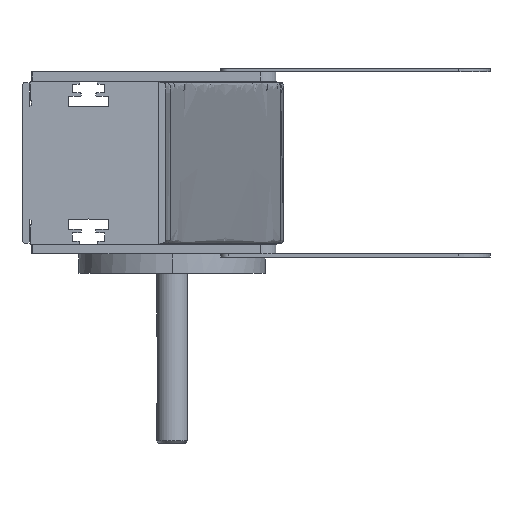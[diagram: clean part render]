
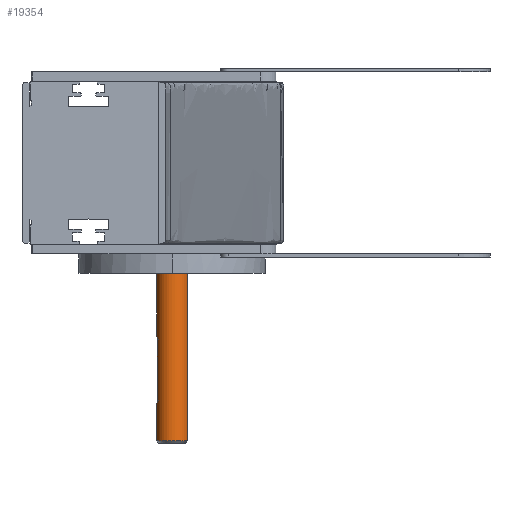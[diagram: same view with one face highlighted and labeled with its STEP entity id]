
A CAD part, left-side view. The second image highlights one B-rep face of the part: STEP entity #19354.
In plain terms, the highlighted cylindrical face has radius 10 mm (diameter 20 mm), a partial arc.
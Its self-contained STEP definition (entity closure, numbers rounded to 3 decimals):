
#10 = CARTESIAN_POINT ( 'NONE',  ( 326.001, -43.698, -180.2 ) ) ;
#36 = DIRECTION ( 'NONE',  ( 0., 0., 1. ) ) ;
#199 = DIRECTION ( 'NONE',  ( 0., 0., 1. ) ) ;
#446 = CARTESIAN_POINT ( 'NONE',  ( 325.804, -43.698, -110.7 ) ) ;
#723 = FACE_OUTER_BOUND ( 'NONE', #11193, .T. ) ;
#824 = CARTESIAN_POINT ( 'NONE',  ( 323.001, -44.158, -152.7 ) ) ;
#853 = DIRECTION ( 'NONE',  ( 0., 0., 1. ) ) ;
#1348 = EDGE_CURVE ( 'NONE', #9110, #12466, #17313, .T. ) ;
#1377 = ORIENTED_EDGE ( 'NONE', *, *, #13293, .F. ) ;
#1561 = VERTEX_POINT ( 'NONE', #10563 ) ;
#1837 = VERTEX_POINT ( 'NONE', #9058 ) ;
#2220 = DIRECTION ( 'NONE',  ( 0., 1., 0. ) ) ;
#2939 = VERTEX_POINT ( 'NONE', #6761 ) ;
#3060 = VECTOR ( 'NONE', #17420, 1000. ) ;
#3576 = CARTESIAN_POINT ( 'NONE',  ( 323.4, -44.041, -112.191 ) ) ;
#3642 = CARTESIAN_POINT ( 'NONE',  ( 326.001, -43.698, -110.7 ) ) ;
#3714 = CARTESIAN_POINT ( 'NONE',  ( 323.156, -44.111, -112.728 ) ) ;
#3877 = CARTESIAN_POINT ( 'NONE',  ( 323.617, -43.985, -154.532 ) ) ;
#4029 = DIRECTION ( 'NONE',  ( 0., 0., 1. ) ) ;
#4097 = CARTESIAN_POINT ( 'NONE',  ( 323.156, -44.111, -153.672 ) ) ;
#4253 = CARTESIAN_POINT ( 'NONE',  ( 326.001, -63.698, -52.5 ) ) ;
#4383 = CARTESIAN_POINT ( 'NONE',  ( 325.804, -43.698, -155.7 ) ) ;
#4827 = LINE ( 'NONE', #7082, #16970 ) ;
#5506 = CARTESIAN_POINT ( 'NONE',  ( 324.488, -43.806, -155.32 ) ) ;
#5707 = CARTESIAN_POINT ( 'NONE',  ( 323.307, -44.067, -154.035 ) ) ;
#6115 = EDGE_CURVE ( 'NONE', #2939, #12466, #8218, .T. ) ;
#6741 = CARTESIAN_POINT ( 'NONE',  ( 323.306, -44.067, -112.367 ) ) ;
#6761 = CARTESIAN_POINT ( 'NONE',  ( 326.001, -43.698, -110.7 ) ) ;
#6878 = CARTESIAN_POINT ( 'NONE',  ( 325.031, -43.743, -110.854 ) ) ;
#6934 = DIRECTION ( 'NONE',  ( 0., -1., 0. ) ) ;
#6950 = CARTESIAN_POINT ( 'NONE',  ( 325.219, -43.727, -110.797 ) ) ;
#7082 = CARTESIAN_POINT ( 'NONE',  ( 326.001, -43.698, -180.2 ) ) ;
#7178 = EDGE_CURVE ( 'NONE', #16358, #1837, #20406, .T. ) ;
#7261 = LINE ( 'NONE', #15904, #3060 ) ;
#7484 = LINE ( 'NONE', #10349, #9469 ) ;
#8122 = ORIENTED_EDGE ( 'NONE', *, *, #6115, .F. ) ;
#8218 = LINE ( 'NONE', #10, #11738 ) ;
#8280 = CARTESIAN_POINT ( 'NONE',  ( 323.741, -43.956, -111.717 ) ) ;
#8349 = CARTESIAN_POINT ( 'NONE',  ( 323.021, -44.152, -113.301 ) ) ;
#8404 = B_SPLINE_CURVE_WITH_KNOTS ( 'NONE', 3,
 ( #824, #13681, #10278, #8729, #4097, #5707, #18064, #3877, #8658, #14996, #5506, #11889, #19730, #13889, #4383, #12317 ),
 .UNSPECIFIED., .F., .F.,
 ( 4, 2, 2, 2, 2, 2, 2, 4 ),
 ( 0., 0.001, 0.001, 0.002, 0.002, 0.004, 0.004, 0.005 ),
 .UNSPECIFIED. ) ;
#8549 = CARTESIAN_POINT ( 'NONE',  ( 324.493, -43.811, -111.099 ) ) ;
#8644 = CARTESIAN_POINT ( 'NONE',  ( 326.001, -53.698, -178.7 ) ) ;
#8658 = CARTESIAN_POINT ( 'NONE',  ( 323.743, -43.955, -154.685 ) ) ;
#8729 = CARTESIAN_POINT ( 'NONE',  ( 323.097, -44.128, -153.481 ) ) ;
#9058 = CARTESIAN_POINT ( 'NONE',  ( 326.001, -63.698, -178.7 ) ) ;
#9110 = VERTEX_POINT ( 'NONE', #4253 ) ;
#9203 = CARTESIAN_POINT ( 'NONE',  ( 323.001, -44.158, -152.7 ) ) ;
#9371 = CARTESIAN_POINT ( 'NONE',  ( 326.001, -53.698, -180.2 ) ) ;
#9469 = VECTOR ( 'NONE', #4029, 1000. ) ;
#9688 = VERTEX_POINT ( 'NONE', #9203 ) ;
#9867 = VERTEX_POINT ( 'NONE', #15977 ) ;
#10054 = CARTESIAN_POINT ( 'NONE',  ( 326.001, -53.698, -52.5 ) ) ;
#10099 = CARTESIAN_POINT ( 'NONE',  ( 323.617, -43.985, -111.867 ) ) ;
#10100 = CYLINDRICAL_SURFACE ( 'NONE', #17549, 10. ) ;
#10278 = CARTESIAN_POINT ( 'NONE',  ( 323.02, -44.152, -153.095 ) ) ;
#10313 = ORIENTED_EDGE ( 'NONE', *, *, #1348, .T. ) ;
#10349 = CARTESIAN_POINT ( 'NONE',  ( 326.001, -63.698, -180.2 ) ) ;
#10407 = DIRECTION ( 'NONE',  ( 0., 0., 1. ) ) ;
#10481 = ORIENTED_EDGE ( 'NONE', *, *, #17554, .T. ) ;
#10548 = ORIENTED_EDGE ( 'NONE', *, *, #13817, .T. ) ;
#10563 = CARTESIAN_POINT ( 'NONE',  ( 326.001, -43.698, -155.7 ) ) ;
#10692 = AXIS2_PLACEMENT_3D ( 'NONE', #10054, #13321, #11960 ) ;
#10731 = AXIS2_PLACEMENT_3D ( 'NONE', #8644, #10407, #2220 ) ;
#10775 = EDGE_CURVE ( 'NONE', #1837, #9110, #7484, .T. ) ;
#11193 = EDGE_LOOP ( 'NONE', ( #1377, #15373, #12171, #10313, #8122, #15229, #10481, #10548 ) ) ;
#11499 = CARTESIAN_POINT ( 'NONE',  ( 324.017, -43.895, -111.441 ) ) ;
#11738 = VECTOR ( 'NONE', #199, 1000. ) ;
#11889 = CARTESIAN_POINT ( 'NONE',  ( 325.03, -43.743, -155.545 ) ) ;
#11960 = DIRECTION ( 'NONE',  ( 0., 1., 0. ) ) ;
#12171 = ORIENTED_EDGE ( 'NONE', *, *, #10775, .T. ) ;
#12317 = CARTESIAN_POINT ( 'NONE',  ( 326.001, -43.698, -155.7 ) ) ;
#12466 = VERTEX_POINT ( 'NONE', #15952 ) ;
#12795 = CARTESIAN_POINT ( 'NONE',  ( 326.001, -43.698, -178.7 ) ) ;
#13293 = EDGE_CURVE ( 'NONE', #16358, #1561, #4827, .T. ) ;
#13321 = DIRECTION ( 'NONE',  ( 0., 0., -1. ) ) ;
#13681 = CARTESIAN_POINT ( 'NONE',  ( 323.001, -44.158, -152.9 ) ) ;
#13817 = EDGE_CURVE ( 'NONE', #9688, #1561, #8404, .T. ) ;
#13889 = CARTESIAN_POINT ( 'NONE',  ( 325.608, -43.704, -155.681 ) ) ;
#14445 = EDGE_CURVE ( 'NONE', #2939, #9867, #16105, .T. ) ;
#14685 = CARTESIAN_POINT ( 'NONE',  ( 323.001, -44.158, -113.7 ) ) ;
#14761 = CARTESIAN_POINT ( 'NONE',  ( 324.667, -43.785, -111.006 ) ) ;
#14996 = CARTESIAN_POINT ( 'NONE',  ( 324.155, -43.865, -155.097 ) ) ;
#15229 = ORIENTED_EDGE ( 'NONE', *, *, #14445, .T. ) ;
#15373 = ORIENTED_EDGE ( 'NONE', *, *, #7178, .T. ) ;
#15904 = CARTESIAN_POINT ( 'NONE',  ( 323.001, -44.158, -180.2 ) ) ;
#15952 = CARTESIAN_POINT ( 'NONE',  ( 326.001, -43.698, -52.5 ) ) ;
#15977 = CARTESIAN_POINT ( 'NONE',  ( 323.001, -44.158, -113.7 ) ) ;
#16105 = B_SPLINE_CURVE_WITH_KNOTS ( 'NONE', 3,
 ( #3642, #446, #16245, #6950, #6878, #14761, #8549, #19480, #11499, #8280, #10099, #3576, #6741, #3714, #17827, #8349, #18029, #14685 ),
 .UNSPECIFIED., .F., .F.,
 ( 4, 2, 2, 2, 2, 2, 2, 2, 4 ),
 ( 0.005, 0.005, 0.006, 0.006, 0.007, 0.008, 0.008, 0.009, 0.009 ),
 .UNSPECIFIED. ) ;
#16245 = CARTESIAN_POINT ( 'NONE',  ( 325.604, -43.704, -110.72 ) ) ;
#16358 = VERTEX_POINT ( 'NONE', #12795 ) ;
#16970 = VECTOR ( 'NONE', #853, 1000. ) ;
#17313 = CIRCLE ( 'NONE', #10692, 10. ) ;
#17420 = DIRECTION ( 'NONE',  ( 0., 0., -1. ) ) ;
#17549 = AXIS2_PLACEMENT_3D ( 'NONE', #9371, #36, #6934 ) ;
#17554 = EDGE_CURVE ( 'NONE', #9867, #9688, #7261, .T. ) ;
#17827 = CARTESIAN_POINT ( 'NONE',  ( 323.099, -44.128, -112.915 ) ) ;
#18029 = CARTESIAN_POINT ( 'NONE',  ( 323.001, -44.158, -113.501 ) ) ;
#18064 = CARTESIAN_POINT ( 'NONE',  ( 323.399, -44.042, -154.206 ) ) ;
#19354 = ADVANCED_FACE ( 'NONE', ( #723 ), #10100, .T. ) ;
#19480 = CARTESIAN_POINT ( 'NONE',  ( 324.17, -43.865, -111.316 ) ) ;
#19730 = CARTESIAN_POINT ( 'NONE',  ( 325.22, -43.726, -155.603 ) ) ;
#20406 = CIRCLE ( 'NONE', #10731, 10. ) ;
